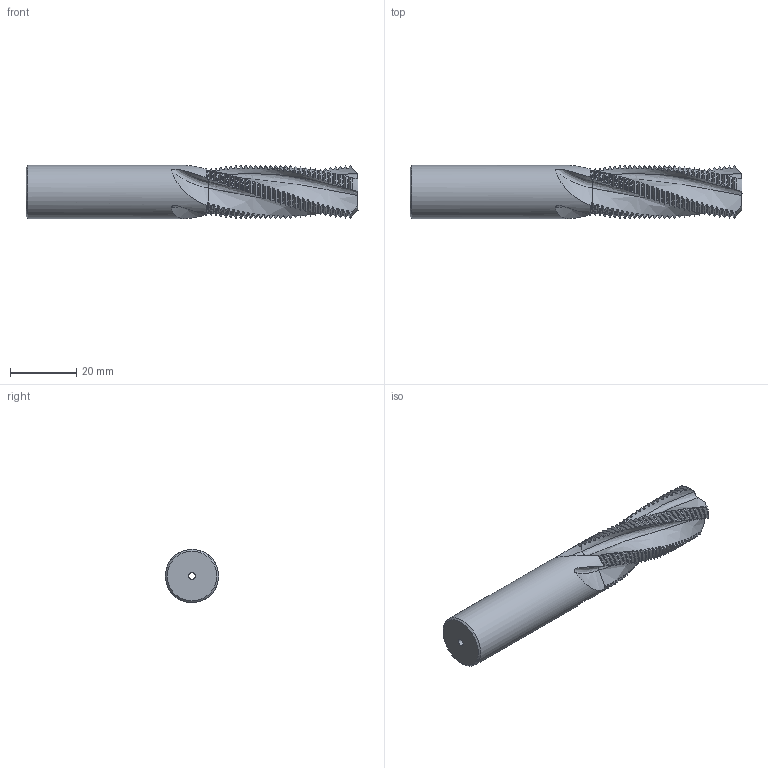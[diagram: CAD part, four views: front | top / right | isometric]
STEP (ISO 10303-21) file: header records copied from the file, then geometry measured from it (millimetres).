
FILE_DESCRIPTION(/* description */ (''),/* implementation_level */ '2;1');
FILE_NAME(/* name */ '00036392-STEP',/* time_stamp */ '2024-02-19T10:35:33+01:00',/* author */ (''),/* organization */ (''),/* preprocessor_version */ 'ST-DEVELOPER v16.5',/* originating_system */ 'HiCAD 2017 2201.0 Build 268',/* authorisation */ '');
FILE_SCHEMA (('AUTOMOTIVE_DESIGN { 1 0 10303 214 1 1 1 1 }'));
Products named in the file (2): Root; ROTATIONSTEIL_0
Assembly tree (1 placements, depth 2):
  Root
    ROTATIONSTEIL_0
Bounding box: 100 x 16 x 16 mm (x, y, z)
Volume: 14934.3 mm3; surface area: 6599.4 mm2
Topology: 1 solids, 1 shells, 741 faces, 2215 edges, 1476 vertices
Faces by surface type: cone 241, cylinder 238, torus 236, bspline 24, plane 2
Full cylindrical faces by diameter (mm): 2 x1, 16 x1
Entity records: 75607 total; most frequent: CARTESIAN_POINT 37390, PRESENTATION_STYLE_ASSIGNMENT 4419, COLOUR_RGB 4419, DRAUGHTING_PRE_DEFINED_CURVE_FONT 4418, CURVE_STYLE 4418, OVER_RIDING_STYLED_ITEM 4418, ORIENTED_EDGE 4418, DIRECTION 2880
